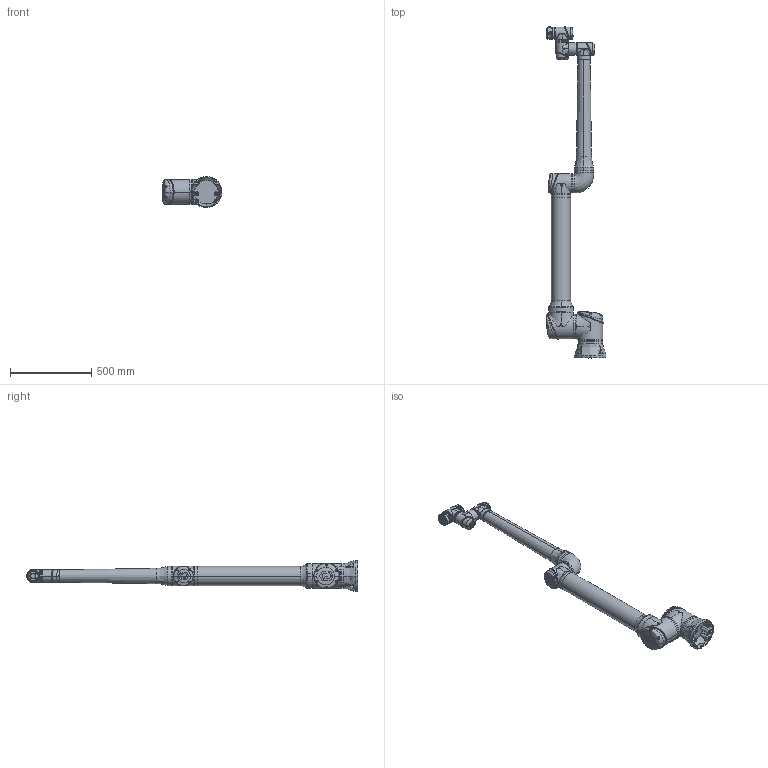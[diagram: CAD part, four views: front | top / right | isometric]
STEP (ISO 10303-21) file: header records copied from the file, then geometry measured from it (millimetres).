
FILE_DESCRIPTION (( 'STEP AP203' ), '1' );
FILE_NAME ('CS_掛极CS66-18_V1.2.STEP', '2026-04-28T11:51:23', ( '' ), ( '' ), 'SwSTEP 2.0', 'SolidWorks 2017', '' );
FILE_SCHEMA (( 'CONFIG_CONTROL_DESIGN' ));
Length unit declared in the file: millimetre
Products named in the file (8): CS66-18 Link1; CS_掛极CS66-18_V1.2; CS66-18 Link6; CS66-18 Link4; CS66-18 Link2; CS66-18 Link5; CS66-18 Base; C66-18 Link3
Assembly tree (7 placements, depth 2):
  CS_掛极CS66-18_V1.2
    CS66-18 Base
    CS66-18 Link1
    CS66-18 Link2
    CS66-18 Link5
    C66-18 Link3
    CS66-18 Link4
    CS66-18 Link6
Bounding box: 366.86 x 2037.2 x 189.7 mm (x, y, z)
Volume: 26754450.2 mm3; surface area: 1871491.5 mm2
Topology: 73 solids, 84 shells, 5078 faces, 12190 edges, 7372 vertices
Faces by surface type: bspline 2069, plane 1324, cylinder 893, cone 353, torus 245, sphere 194
Entity records: 575235 total; most frequent: CARTESIAN_POINT 474236, ORIENTED_EDGE 23998, DIRECTION 16490, EDGE_CURVE 11999, VERTEX_POINT 7345, AXIS2_PLACEMENT_3D 6934, EDGE_LOOP 5422, FACE_OUTER_BOUND 5078
